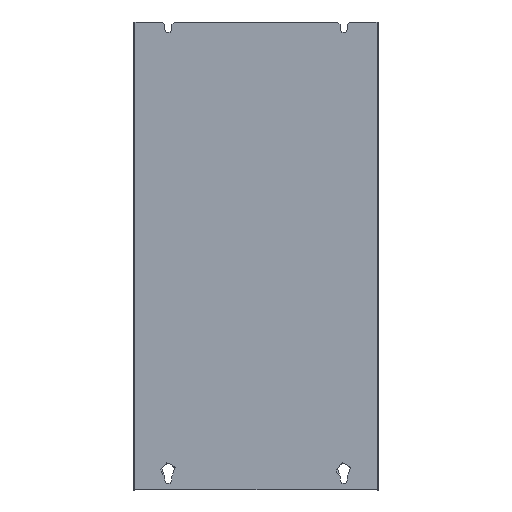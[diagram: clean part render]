
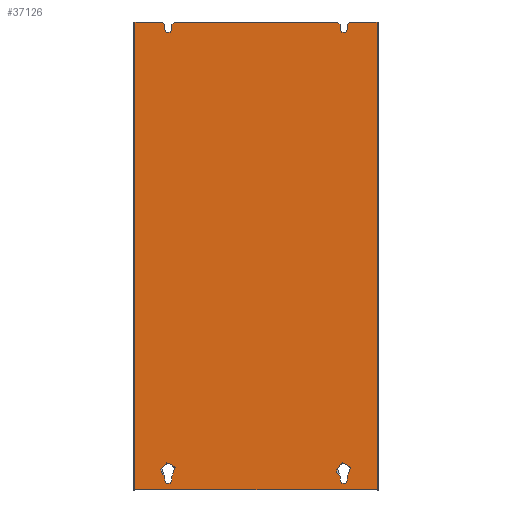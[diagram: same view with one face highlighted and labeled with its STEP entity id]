
A CAD part, top view. The second image highlights one B-rep face of the part: STEP entity #37126.
In plain terms, the highlighted planar face has unit normal (0, 0, 1).
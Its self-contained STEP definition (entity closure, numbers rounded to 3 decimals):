
#37126=ADVANCED_FACE('',(#71605,#71607,#71609),#71611,.T.);
#71605=FACE_BOUND('',#71606,.T.);
#71606=EDGE_LOOP('',(#95125,#95126,#95127,#95128,#95129,#95130,#95131,#95132,#95133,
#95134,#95135,#95136,#95137,#95138,#95139,#95140));
#71607=FACE_BOUND('',#71608,.T.);
#71608=EDGE_LOOP('',(#95141,#95142,#95143,#95144,#95145));
#71609=FACE_BOUND('',#71610,.T.);
#71610=EDGE_LOOP('',(#95146,#95147,#95148,#95149,#95150));
#71611=PLANE('',#71612);
#71612=AXIS2_PLACEMENT_3D('',#71613,#71614,#71615);
#71613=CARTESIAN_POINT('',(-286.594,1311.962,493.306));
#71614=DIRECTION('',(0.,0.,1.));
#71615=DIRECTION('',(1.,0.,0.));
#95125=ORIENTED_EDGE('',*,*,#111145,.T.);
#95126=ORIENTED_EDGE('',*,*,#111113,.T.);
#95127=ORIENTED_EDGE('',*,*,#111117,.F.);
#95128=ORIENTED_EDGE('',*,*,#111110,.F.);
#95129=ORIENTED_EDGE('',*,*,#111108,.F.);
#95130=ORIENTED_EDGE('',*,*,#111103,.T.);
#95131=ORIENTED_EDGE('',*,*,#111146,.T.);
#95132=ORIENTED_EDGE('',*,*,#110760,.T.);
#95133=ORIENTED_EDGE('',*,*,#110764,.F.);
#95134=ORIENTED_EDGE('',*,*,#110767,.F.);
#95135=ORIENTED_EDGE('',*,*,#110772,.F.);
#95136=ORIENTED_EDGE('',*,*,#110775,.T.);
#95137=ORIENTED_EDGE('',*,*,#110776,.T.);
#95138=ORIENTED_EDGE('',*,*,#110779,.T.);
#95139=ORIENTED_EDGE('',*,*,#110953,.T.);
#95140=ORIENTED_EDGE('',*,*,#110954,.T.);
#95141=ORIENTED_EDGE('',*,*,#111139,.F.);
#95142=ORIENTED_EDGE('',*,*,#111130,.F.);
#95143=ORIENTED_EDGE('',*,*,#111134,.F.);
#95144=ORIENTED_EDGE('',*,*,#111137,.F.);
#95145=ORIENTED_EDGE('',*,*,#109501,.F.);
#95146=ORIENTED_EDGE('',*,*,#111125,.F.);
#95147=ORIENTED_EDGE('',*,*,#111128,.F.);
#95148=ORIENTED_EDGE('',*,*,#111119,.F.);
#95149=ORIENTED_EDGE('',*,*,#109505,.F.);
#95150=ORIENTED_EDGE('',*,*,#111122,.F.);
#109501=EDGE_CURVE('',#135900,#135901,#135902,.T.);
#109505=EDGE_CURVE('',#135908,#135909,#135910,.T.);
#110760=EDGE_CURVE('',#138082,#138083,#138084,.T.);
#110764=EDGE_CURVE('',#138090,#138083,#138091,.T.);
#110767=EDGE_CURVE('',#138095,#138090,#138096,.T.);
#110772=EDGE_CURVE('',#138102,#138095,#138104,.T.);
#110775=EDGE_CURVE('',#138102,#138107,#138109,.T.);
#110776=EDGE_CURVE('',#138107,#138110,#138111,.T.);
#110779=EDGE_CURVE('',#138110,#138115,#138116,.T.);
#110953=EDGE_CURVE('',#138115,#138378,#138380,.T.);
#110954=EDGE_CURVE('',#138378,#138381,#138382,.T.);
#111103=EDGE_CURVE('',#138604,#138605,#138606,.T.);
#111108=EDGE_CURVE('',#138604,#138614,#138615,.T.);
#111110=EDGE_CURVE('',#138614,#138617,#138618,.T.);
#111113=EDGE_CURVE('',#138622,#138623,#138624,.T.);
#111117=EDGE_CURVE('',#138617,#138623,#138630,.T.);
#111119=EDGE_CURVE('',#135909,#138632,#138633,.T.);
#111122=EDGE_CURVE('',#138637,#135908,#138638,.T.);
#111125=EDGE_CURVE('',#138642,#138637,#138643,.T.);
#111128=EDGE_CURVE('',#138632,#138642,#138647,.T.);
#111130=EDGE_CURVE('',#138649,#138650,#138651,.T.);
#111134=EDGE_CURVE('',#138657,#138649,#138658,.T.);
#111137=EDGE_CURVE('',#135901,#138657,#138662,.T.);
#111139=EDGE_CURVE('',#138650,#135900,#138664,.T.);
#111145=EDGE_CURVE('',#138381,#138622,#138672,.T.);
#111146=EDGE_CURVE('',#138605,#138082,#138673,.T.);
#135900=VERTEX_POINT('',#210520);
#135901=VERTEX_POINT('',#210521);
#135902=CIRCLE('',#210522,10.);
#135908=VERTEX_POINT('',#210538);
#135909=VERTEX_POINT('',#210539);
#135910=CIRCLE('',#210540,10.);
#138082=VERTEX_POINT('',#215712);
#138083=VERTEX_POINT('',#215713);
#138084=LINE('',#215714,#215715);
#138090=VERTEX_POINT('',#215728);
#138091=LINE('',#215729,#215730);
#138095=VERTEX_POINT('',#215739);
#138096=CIRCLE('',#215740,5.);
#138102=VERTEX_POINT('',#215756);
#138104=LINE('',#215760,#215761);
#138107=VERTEX_POINT('',#215767);
#138109=LINE('',#215771,#215772);
#138110=VERTEX_POINT('',#215774);
#138111=LINE('',#215775,#215776);
#138115=VERTEX_POINT('',#215785);
#138116=LINE('',#215786,#215787);
#138378=VERTEX_POINT('',#216446);
#138380=LINE('',#216450,#216451);
#138381=VERTEX_POINT('',#216453);
#138382=LINE('',#216454,#216455);
#138604=VERTEX_POINT('',#217016);
#138605=VERTEX_POINT('',#217017);
#138606=LINE('',#217018,#217019);
#138614=VERTEX_POINT('',#217036);
#138615=LINE('',#217037,#217038);
#138617=VERTEX_POINT('',#217043);
#138618=CIRCLE('',#217044,5.);
#138622=VERTEX_POINT('',#217056);
#138623=VERTEX_POINT('',#217057);
#138624=LINE('',#217058,#217059);
#138630=LINE('',#217072,#217073);
#138632=VERTEX_POINT('',#217078);
#138633=CIRCLE('',#217079,10.);
#138637=VERTEX_POINT('',#217091);
#138638=LINE('',#217092,#217093);
#138642=VERTEX_POINT('',#217102);
#138643=CIRCLE('',#217103,5.);
#138647=LINE('',#217115,#217116);
#138649=VERTEX_POINT('',#217121);
#138650=VERTEX_POINT('',#217122);
#138651=CIRCLE('',#217123,5.);
#138657=VERTEX_POINT('',#217139);
#138658=LINE('',#217140,#217141);
#138662=CIRCLE('',#217150,10.);
#138664=LINE('',#217158,#217159);
#138672=LINE('',#217180,#217181);
#138673=LINE('',#217183,#217184);
#210520=CARTESIAN_POINT('',(-161.594,1010.801,493.306));
#210521=CARTESIAN_POINT('',(-176.594,1019.462,493.306));
#210522=AXIS2_PLACEMENT_3D('',#210523,#210524,#210525);
#210523=CARTESIAN_POINT('',(-166.594,1019.462,493.306));
#210524=DIRECTION('',(0.,0.,1.));
#210525=DIRECTION('',(0.5,-0.866,0.));
#210538=CARTESIAN_POINT('',(-401.594,1010.801,493.306));
#210539=CARTESIAN_POINT('',(-416.594,1019.462,493.306));
#210540=AXIS2_PLACEMENT_3D('',#210541,#210542,#210543);
#210541=CARTESIAN_POINT('',(-406.594,1019.462,493.306));
#210542=DIRECTION('',(0.,0.,1.));
#210543=DIRECTION('',(0.5,-0.866,0.));
#215712=CARTESIAN_POINT('',(-398.594,1631.962,493.306));
#215713=CARTESIAN_POINT('',(-401.594,1628.962,493.306));
#215714=CARTESIAN_POINT('',(-398.594,1631.962,493.306));
#215715=VECTOR('',#215716,1.);
#215716=DIRECTION('',(-0.707,-0.707,0.));
#215728=CARTESIAN_POINT('',(-401.594,1621.962,493.306));
#215729=CARTESIAN_POINT('',(-401.594,1621.962,493.306));
#215730=VECTOR('',#215731,1.);
#215731=DIRECTION('',(0.,1.,0.));
#215739=CARTESIAN_POINT('',(-411.594,1621.962,493.306));
#215740=AXIS2_PLACEMENT_3D('',#215741,#215742,#215743);
#215741=CARTESIAN_POINT('',(-406.594,1621.962,493.306));
#215742=DIRECTION('',(0.,0.,1.));
#215743=DIRECTION('',(-1.,0.,0.));
#215756=CARTESIAN_POINT('',(-411.594,1628.962,493.306));
#215760=CARTESIAN_POINT('',(-411.594,1628.962,493.306));
#215761=VECTOR('',#215762,1.);
#215762=DIRECTION('',(0.,-1.,0.));
#215767=CARTESIAN_POINT('',(-414.594,1631.962,493.306));
#215771=CARTESIAN_POINT('',(-411.594,1628.962,493.306));
#215772=VECTOR('',#215773,1.);
#215773=DIRECTION('',(-0.707,0.707,0.));
#215774=CARTESIAN_POINT('',(-452.094,1631.962,493.306));
#215775=CARTESIAN_POINT('',(-414.594,1631.962,493.306));
#215776=VECTOR('',#215777,1.);
#215777=DIRECTION('',(-1.,0.,0.));
#215785=CARTESIAN_POINT('',(-452.094,991.962,493.306));
#215786=CARTESIAN_POINT('',(-452.094,1631.962,493.306));
#215787=VECTOR('',#215788,1.);
#215788=DIRECTION('',(0.,-1.,0.));
#216446=CARTESIAN_POINT('',(-121.094,991.962,493.306));
#216450=CARTESIAN_POINT('',(-452.094,991.962,493.306));
#216451=VECTOR('',#216452,1.);
#216452=DIRECTION('',(1.,0.,0.));
#216453=CARTESIAN_POINT('',(-121.094,1631.962,493.306));
#216454=CARTESIAN_POINT('',(-121.094,991.962,493.306));
#216455=VECTOR('',#216456,1.);
#216456=DIRECTION('',(0.,1.,0.));
#217016=CARTESIAN_POINT('',(-171.594,1628.962,493.306));
#217017=CARTESIAN_POINT('',(-174.594,1631.962,493.306));
#217018=CARTESIAN_POINT('',(-171.594,1628.962,493.306));
#217019=VECTOR('',#217020,1.);
#217020=DIRECTION('',(-0.707,0.707,0.));
#217036=CARTESIAN_POINT('',(-171.594,1621.962,493.306));
#217037=CARTESIAN_POINT('',(-171.594,1628.962,493.306));
#217038=VECTOR('',#217039,1.);
#217039=DIRECTION('',(0.,-1.,0.));
#217043=CARTESIAN_POINT('',(-161.594,1621.962,493.306));
#217044=AXIS2_PLACEMENT_3D('',#217045,#217046,#217047);
#217045=CARTESIAN_POINT('',(-166.594,1621.962,493.306));
#217046=DIRECTION('',(0.,0.,1.));
#217047=DIRECTION('',(-1.,0.,0.));
#217056=CARTESIAN_POINT('',(-158.594,1631.962,493.306));
#217057=CARTESIAN_POINT('',(-161.594,1628.962,493.306));
#217058=CARTESIAN_POINT('',(-158.594,1631.962,493.306));
#217059=VECTOR('',#217060,1.);
#217060=DIRECTION('',(-0.707,-0.707,0.));
#217072=CARTESIAN_POINT('',(-161.594,1621.962,493.306));
#217073=VECTOR('',#217074,1.);
#217074=DIRECTION('',(0.,1.,0.));
#217078=CARTESIAN_POINT('',(-411.594,1010.801,493.306));
#217079=AXIS2_PLACEMENT_3D('',#217080,#217081,#217082);
#217080=CARTESIAN_POINT('',(-406.594,1019.462,493.306));
#217081=DIRECTION('',(0.,0.,1.));
#217082=DIRECTION('',(-1.,0.,0.));
#217091=CARTESIAN_POINT('',(-401.594,1005.462,493.306));
#217092=CARTESIAN_POINT('',(-401.594,1005.462,493.306));
#217093=VECTOR('',#217094,1.);
#217094=DIRECTION('',(0.,1.,0.));
#217102=CARTESIAN_POINT('',(-411.594,1005.462,493.306));
#217103=AXIS2_PLACEMENT_3D('',#217104,#217105,#217106);
#217104=CARTESIAN_POINT('',(-406.594,1005.462,493.306));
#217105=DIRECTION('',(0.,0.,1.));
#217106=DIRECTION('',(-1.,0.,0.));
#217115=CARTESIAN_POINT('',(-411.594,1010.801,493.306));
#217116=VECTOR('',#217117,1.);
#217117=DIRECTION('',(0.,-1.,0.));
#217121=CARTESIAN_POINT('',(-171.594,1005.462,493.306));
#217122=CARTESIAN_POINT('',(-161.594,1005.462,493.306));
#217123=AXIS2_PLACEMENT_3D('',#217124,#217125,#217126);
#217124=CARTESIAN_POINT('',(-166.594,1005.462,493.306));
#217125=DIRECTION('',(0.,0.,1.));
#217126=DIRECTION('',(-1.,0.,0.));
#217139=CARTESIAN_POINT('',(-171.594,1010.801,493.306));
#217140=CARTESIAN_POINT('',(-171.594,1010.801,493.306));
#217141=VECTOR('',#217142,1.);
#217142=DIRECTION('',(0.,-1.,0.));
#217150=AXIS2_PLACEMENT_3D('',#217151,#217152,#217153);
#217151=CARTESIAN_POINT('',(-166.594,1019.462,493.306));
#217152=DIRECTION('',(0.,0.,1.));
#217153=DIRECTION('',(-1.,0.,0.));
#217158=CARTESIAN_POINT('',(-161.594,1005.462,493.306));
#217159=VECTOR('',#217160,1.);
#217160=DIRECTION('',(0.,1.,0.));
#217180=CARTESIAN_POINT('',(-121.094,1631.962,493.306));
#217181=VECTOR('',#217182,1.);
#217182=DIRECTION('',(-1.,0.,0.));
#217183=CARTESIAN_POINT('',(-174.594,1631.962,493.306));
#217184=VECTOR('',#217185,1.);
#217185=DIRECTION('',(-1.,0.,0.));
